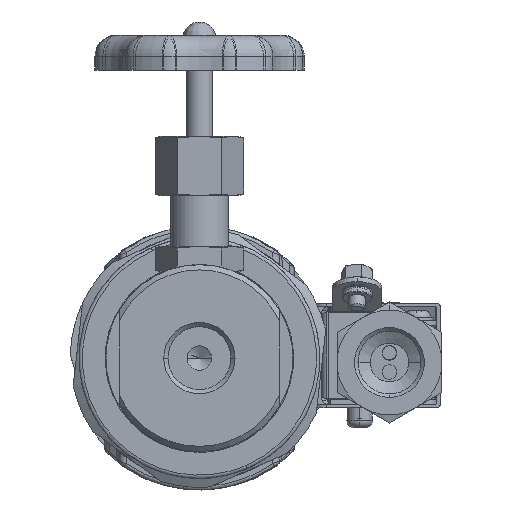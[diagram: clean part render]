
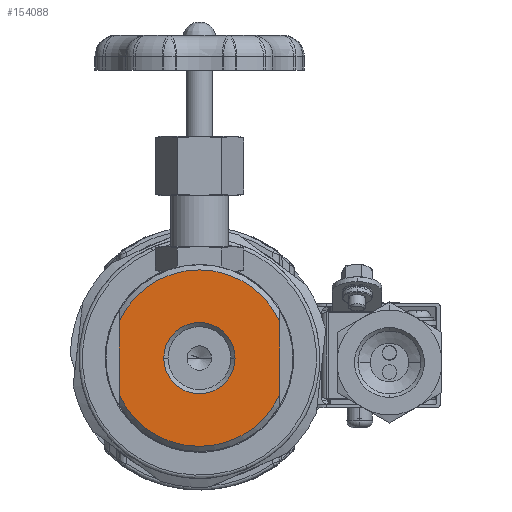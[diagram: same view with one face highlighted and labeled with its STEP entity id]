
A CAD part, front view. The second image highlights one B-rep face of the part: STEP entity #154088.
In plain terms, the highlighted planar face has unit normal (0, -1, 0).
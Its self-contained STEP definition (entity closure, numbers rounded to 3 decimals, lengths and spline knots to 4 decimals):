
#2144 = EDGE_LOOP ( 'NONE', ( #139525, #36449 ) ) ;
#2423 = VERTEX_POINT ( 'NONE', #7578 ) ;
#3387 = DIRECTION ( 'NONE',  ( 1., 0., 0. ) ) ;
#7535 = DIRECTION ( 'NONE',  ( 0., -1., 0. ) ) ;
#7578 = CARTESIAN_POINT ( 'NONE',  ( 0.9055, -2.4173, -0.4102 ) ) ;
#12668 = CARTESIAN_POINT ( 'NONE',  ( 0.9055, -2.4173, 0.4102 ) ) ;
#12726 = EDGE_CURVE ( 'NONE', #53494, #42379, #97340, .T. ) ;
#17293 = AXIS2_PLACEMENT_3D ( 'NONE', #79632, #66952, #78871 ) ;
#17772 = CARTESIAN_POINT ( 'NONE',  ( 0., -2.4173, 0. ) ) ;
#18185 = DIRECTION ( 'NONE',  ( 1., 0., 0. ) ) ;
#20948 = CIRCLE ( 'NONE', #97102, 0.4016 ) ;
#31093 = EDGE_LOOP ( 'NONE', ( #32240, #151829, #137035, #110653 ) ) ;
#32240 = ORIENTED_EDGE ( 'NONE', *, *, #12726, .T. ) ;
#36449 = ORIENTED_EDGE ( 'NONE', *, *, #133355, .T. ) ;
#38910 = VERTEX_POINT ( 'NONE', #46229 ) ;
#39847 = DIRECTION ( 'NONE',  ( 0., -1., 0. ) ) ;
#42364 = PLANE ( 'NONE',  #17293 ) ;
#42379 = VERTEX_POINT ( 'NONE', #119979 ) ;
#43160 = CARTESIAN_POINT ( 'NONE',  ( -0.9055, -2.4173, 0.4102 ) ) ;
#43912 = FACE_BOUND ( 'NONE', #2144, .T. ) ;
#46118 = CIRCLE ( 'NONE', #132319, 0.9941 ) ;
#46229 = CARTESIAN_POINT ( 'NONE',  ( -0.4016, -2.4173, 0. ) ) ;
#46516 = DIRECTION ( 'NONE',  ( 0., 0., -1. ) ) ;
#53494 = VERTEX_POINT ( 'NONE', #43160 ) ;
#55455 = CARTESIAN_POINT ( 'NONE',  ( 0., -2.4173, 0. ) ) ;
#56597 = DIRECTION ( 'NONE',  ( 0., 1., 0. ) ) ;
#66736 = EDGE_CURVE ( 'NONE', #140486, #2423, #105273, .T. ) ;
#66952 = DIRECTION ( 'NONE',  ( 0., -1., 0. ) ) ;
#77936 = CIRCLE ( 'NONE', #108401, 0.9941 ) ;
#78119 = VERTEX_POINT ( 'NONE', #133919 ) ;
#78871 = DIRECTION ( 'NONE',  ( 1., 0., 0. ) ) ;
#79632 = CARTESIAN_POINT ( 'NONE',  ( 0., -2.4173, 0. ) ) ;
#79890 = VECTOR ( 'NONE', #46516, 39.3701 ) ;
#89590 = DIRECTION ( 'NONE',  ( 0., 1., 0. ) ) ;
#96577 = CARTESIAN_POINT ( 'NONE',  ( -0.9055, -2.4173, 0.9843 ) ) ;
#97102 = AXIS2_PLACEMENT_3D ( 'NONE', #55455, #89590, #18185 ) ;
#97340 = LINE ( 'NONE', #96577, #136861 ) ;
#101513 = CIRCLE ( 'NONE', #124378, 0.4016 ) ;
#104987 = DIRECTION ( 'NONE',  ( 1., 0., 0. ) ) ;
#105273 = LINE ( 'NONE', #117166, #79890 ) ;
#105366 = EDGE_CURVE ( 'NONE', #78119, #38910, #101513, .T. ) ;
#108401 = AXIS2_PLACEMENT_3D ( 'NONE', #116991, #7535, #139290 ) ;
#110653 = ORIENTED_EDGE ( 'NONE', *, *, #122691, .T. ) ;
#111300 = CARTESIAN_POINT ( 'NONE',  ( 0., -2.4173, 0. ) ) ;
#116991 = CARTESIAN_POINT ( 'NONE',  ( 0., -2.4173, 0. ) ) ;
#117166 = CARTESIAN_POINT ( 'NONE',  ( 0.9055, -2.4173, 0.9843 ) ) ;
#119979 = CARTESIAN_POINT ( 'NONE',  ( -0.9055, -2.4173, -0.4102 ) ) ;
#122691 = EDGE_CURVE ( 'NONE', #140486, #53494, #77936, .T. ) ;
#124378 = AXIS2_PLACEMENT_3D ( 'NONE', #17772, #56597, #104987 ) ;
#132319 = AXIS2_PLACEMENT_3D ( 'NONE', #111300, #39847, #3387 ) ;
#133355 = EDGE_CURVE ( 'NONE', #38910, #78119, #20948, .T. ) ;
#133919 = CARTESIAN_POINT ( 'NONE',  ( 0.4016, -2.4173, 0. ) ) ;
#136861 = VECTOR ( 'NONE', #145044, 39.3701 ) ;
#137035 = ORIENTED_EDGE ( 'NONE', *, *, #66736, .F. ) ;
#137829 = EDGE_CURVE ( 'NONE', #42379, #2423, #46118, .T. ) ;
#138401 = FACE_OUTER_BOUND ( 'NONE', #31093, .T. ) ;
#139290 = DIRECTION ( 'NONE',  ( 1., 0., 0. ) ) ;
#139525 = ORIENTED_EDGE ( 'NONE', *, *, #105366, .T. ) ;
#140486 = VERTEX_POINT ( 'NONE', #12668 ) ;
#145044 = DIRECTION ( 'NONE',  ( 0., 0., -1. ) ) ;
#151829 = ORIENTED_EDGE ( 'NONE', *, *, #137829, .T. ) ;
#154088 = ADVANCED_FACE ( 'NONE', ( #138401, #43912 ), #42364, .T. ) ;
